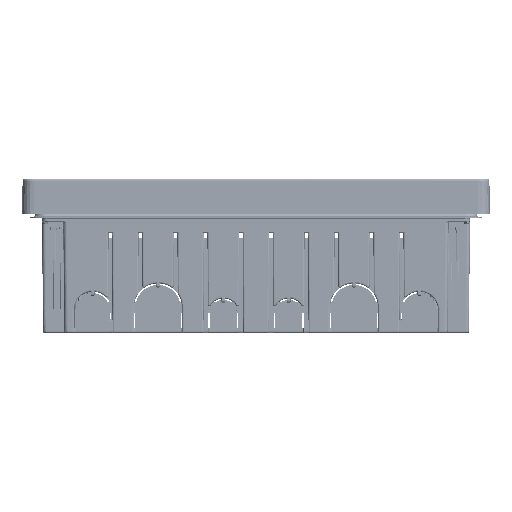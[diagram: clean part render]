
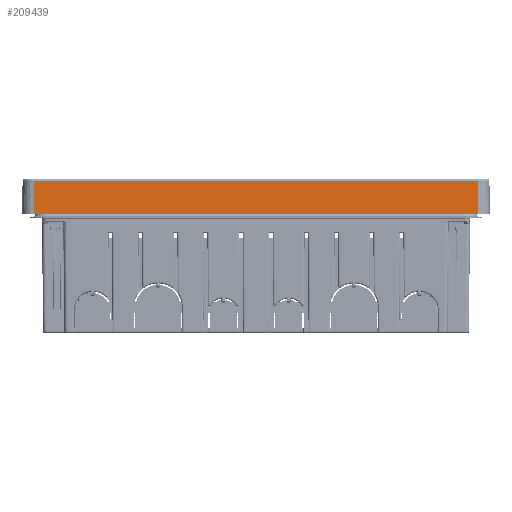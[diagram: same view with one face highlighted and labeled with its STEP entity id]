
A CAD part, front view. The second image highlights one B-rep face of the part: STEP entity #209439.
In plain terms, the highlighted planar face has unit normal (0, -1, 0.018) as drawn and (1, 0.017, 0) by its records, which use the part's own axes.
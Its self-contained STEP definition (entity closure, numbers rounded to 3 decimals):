
#3612 = CARTESIAN_POINT ( 'NONE',  ( 264.55, 0., 148.095 ) ) ;
#12645 = VECTOR ( 'NONE', #104322, 1000. ) ;
#21063 = DIRECTION ( 'NONE',  ( 0., 0., -1. ) ) ;
#40262 = AXIS2_PLACEMENT_3D ( 'NONE', #168026, #95339, #21063 ) ;
#46791 = LINE ( 'NONE', #305863, #169791 ) ;
#51918 = ORIENTED_EDGE ( 'NONE', *, *, #182376, .F. ) ;
#63579 = ORIENTED_EDGE ( 'NONE', *, *, #95718, .F. ) ;
#82663 = VERTEX_POINT ( 'NONE', #144581 ) ;
#89286 = EDGE_CURVE ( 'NONE', #201935, #228503, #266755, .T. ) ;
#93386 = CARTESIAN_POINT ( 'NONE',  ( 264.55, 0., 148.095 ) ) ;
#95339 = DIRECTION ( 'NONE',  ( 1., 0.017, 0. ) ) ;
#95718 = EDGE_CURVE ( 'NONE', #241872, #228503, #280301, .T. ) ;
#100633 = VECTOR ( 'NONE', #194105, 1000. ) ;
#103095 = CARTESIAN_POINT ( 'NONE',  ( 264.55, 0., 148.095 ) ) ;
#104322 = DIRECTION ( 'NONE',  ( -0.017, 1., 0. ) ) ;
#108629 = CARTESIAN_POINT ( 'NONE',  ( 264.162, 22.223, -148.095 ) ) ;
#110254 = DIRECTION ( 'NONE',  ( 0.017, -1., 0. ) ) ;
#123290 = EDGE_LOOP ( 'NONE', ( #189891, #63579, #51918, #211756 ) ) ;
#144581 = CARTESIAN_POINT ( 'NONE',  ( 264.162, 22.223, 148.095 ) ) ;
#147525 = DIRECTION ( 'NONE',  ( 0., 0., -1. ) ) ;
#168026 = CARTESIAN_POINT ( 'NONE',  ( 264.14, 23.5, 148.095 ) ) ;
#169658 = FACE_OUTER_BOUND ( 'NONE', #123290, .T. ) ;
#169791 = VECTOR ( 'NONE', #147525, 1000. ) ;
#182376 = EDGE_CURVE ( 'NONE', #82663, #241872, #46791, .T. ) ;
#189112 = CARTESIAN_POINT ( 'NONE',  ( 264.162, 22.223, -148.095 ) ) ;
#189891 = ORIENTED_EDGE ( 'NONE', *, *, #89286, .T. ) ;
#194105 = DIRECTION ( 'NONE',  ( 0., 0., -1. ) ) ;
#201935 = VERTEX_POINT ( 'NONE', #103095 ) ;
#209439 = ADVANCED_FACE ( 'NONE', ( #169658 ), #324819, .T. ) ;
#211756 = ORIENTED_EDGE ( 'NONE', *, *, #248940, .F. ) ;
#228113 = LINE ( 'NONE', #3612, #12645 ) ;
#228503 = VERTEX_POINT ( 'NONE', #317506 ) ;
#239123 = VECTOR ( 'NONE', #110254, 1000. ) ;
#241872 = VERTEX_POINT ( 'NONE', #189112 ) ;
#248940 = EDGE_CURVE ( 'NONE', #201935, #82663, #228113, .T. ) ;
#266755 = LINE ( 'NONE', #93386, #100633 ) ;
#280301 = LINE ( 'NONE', #108629, #239123 ) ;
#305863 = CARTESIAN_POINT ( 'NONE',  ( 264.162, 22.223, 148.095 ) ) ;
#317506 = CARTESIAN_POINT ( 'NONE',  ( 264.55, 0., -148.095 ) ) ;
#324819 = PLANE ( 'NONE',  #40262 ) ;
